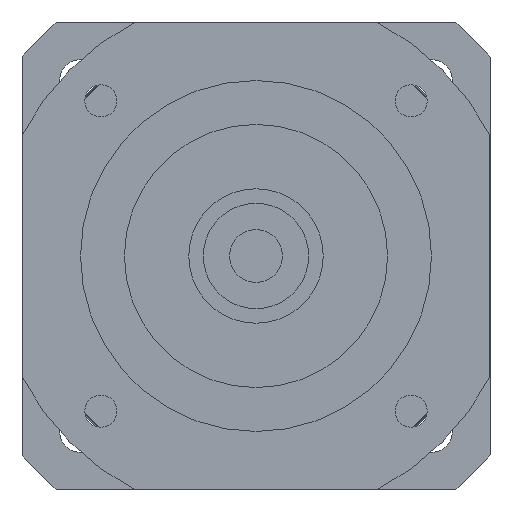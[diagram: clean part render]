
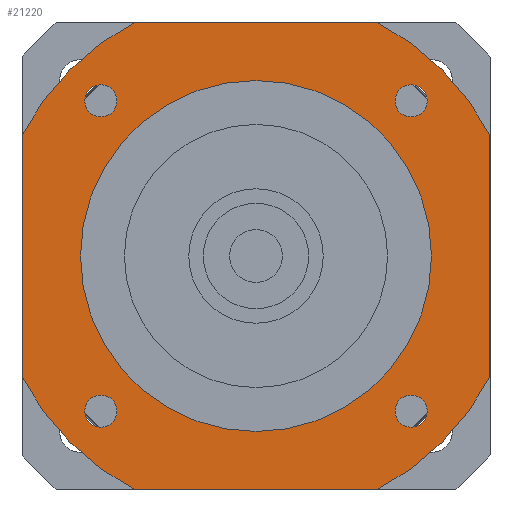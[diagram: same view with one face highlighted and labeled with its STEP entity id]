
A CAD part, left-side view. The second image highlights one B-rep face of the part: STEP entity #21220.
In plain terms, the highlighted planar face has unit normal (-1, 0, 0) as drawn and (0, 0, -1) by its records, which use the part's own axes.
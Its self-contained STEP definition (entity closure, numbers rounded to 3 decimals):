
#19550=CARTESIAN_POINT('',(26.517,23.767,-42.));
#19560=VERTEX_POINT('',#19550);
#19590=CARTESIAN_POINT('',(26.517,26.517,-42.));
#19600=DIRECTION('',(0.,0.,-1.));
#19610=DIRECTION('',(0.,1.,0.));
#19620=AXIS2_PLACEMENT_3D('',#19590,#19600,#19610);
#19630=CIRCLE('',#19620,2.75);
#19640=CARTESIAN_POINT('',(26.517,29.267,-42.));
#19650=VERTEX_POINT('',#19640);
#19660=EDGE_CURVE('',#19650,#19560,#19630,.T.);
#19780=CARTESIAN_POINT('',(40.,40.,-42.));
#19790=DIRECTION('',(0.,0.,-1.));
#19800=DIRECTION('',(1.,0.,0.));
#19810=AXIS2_PLACEMENT_3D('',#19780,#19790,#19800);
#19820=PLANE('',#19810);
#19830=CARTESIAN_POINT('',(-26.517,-26.517,-42.));
#19840=DIRECTION('',(0.,0.,-1.));
#19850=DIRECTION('',(0.,-1.,0.));
#19860=AXIS2_PLACEMENT_3D('',#19830,#19840,#19850);
#19870=CIRCLE('',#19860,2.75);
#19880=CARTESIAN_POINT('',(-26.517,-29.267,-42.));
#19890=VERTEX_POINT('',#19880);
#19900=CARTESIAN_POINT('',(-26.517,-23.767,-42.));
#19910=VERTEX_POINT('',#19900);
#19920=EDGE_CURVE('',#19890,#19910,#19870,.T.);
#19930=ORIENTED_EDGE('',*,*,#19920,.F.);
#19940=EDGE_CURVE('',#19910,#19890,#19870,.T.);
#19950=ORIENTED_EDGE('',*,*,#19940,.F.);
#19960=EDGE_LOOP('',(#19950,#19930));
#19970=FACE_BOUND('',#19960,.T.);
#19980=CARTESIAN_POINT('',(-26.517,26.517,-42.));
#19990=DIRECTION('',(0.,0.,-1.));
#20000=DIRECTION('',(-1.,0.,0.));
#20010=AXIS2_PLACEMENT_3D('',#19980,#19990,#20000);
#20020=CIRCLE('',#20010,2.75);
#20030=CARTESIAN_POINT('',(-29.267,26.517,-42.));
#20040=VERTEX_POINT('',#20030);
#20050=CARTESIAN_POINT('',(-23.767,26.517,-42.));
#20060=VERTEX_POINT('',#20050);
#20070=EDGE_CURVE('',#20040,#20060,#20020,.T.);
#20080=ORIENTED_EDGE('',*,*,#20070,.F.);
#20090=EDGE_CURVE('',#20060,#20040,#20020,.T.);
#20100=ORIENTED_EDGE('',*,*,#20090,.F.);
#20110=EDGE_LOOP('',(#20100,#20080));
#20120=FACE_BOUND('',#20110,.T.);
#20130=ORIENTED_EDGE('',*,*,#19660,.F.);
#20140=EDGE_CURVE('',#19560,#19650,#19630,.T.);
#20150=ORIENTED_EDGE('',*,*,#20140,.F.);
#20160=EDGE_LOOP('',(#20150,#20130));
#20170=FACE_BOUND('',#20160,.T.);
#20180=CARTESIAN_POINT('',(0.,0.,
-42.));
#20190=DIRECTION('',(0.,0.,1.));
#20200=DIRECTION('',(0.,1.,0.));
#20210=AXIS2_PLACEMENT_3D('',#20180,#20190,#20200);
#20220=CIRCLE('',#20210,30.);
#20230=CARTESIAN_POINT('',(-30.,0.,-42.));
#20240=VERTEX_POINT('',#20230);
#20250=CARTESIAN_POINT('',(30.,0.,-42.));
#20260=VERTEX_POINT('',#20250);
#20270=EDGE_CURVE('',#20240,#20260,#20220,.T.);
#20280=ORIENTED_EDGE('',*,*,#20270,.T.);
#20290=CARTESIAN_POINT('',(0.,30.,-42.));
#20300=VERTEX_POINT('',#20290);
#20310=EDGE_CURVE('',#20300,#20240,#20220,.T.);
#20320=ORIENTED_EDGE('',*,*,#20310,.T.);
#20330=EDGE_CURVE('',#20260,#20300,#20220,.T.);
#20340=ORIENTED_EDGE('',*,*,#20330,.T.);
#20350=EDGE_LOOP('',(#20340,#20320,#20280));
#20360=FACE_BOUND('',#20350,.T.);
#20370=CARTESIAN_POINT('',(-40.,40.,-42.));
#20380=DIRECTION('',(1.,0.,0.));
#20390=VECTOR('',#20380,1000.);
#20400=LINE('',#20370,#20390);
#20410=CARTESIAN_POINT('',(-20.616,40.,-42.));
#20420=VERTEX_POINT('',#20410);
#20430=CARTESIAN_POINT('',(20.616,40.,-42.));
#20440=VERTEX_POINT('',#20430);
#20450=EDGE_CURVE('',#20420,#20440,#20400,.T.);
#20460=ORIENTED_EDGE('',*,*,#20450,.T.);
#20470=CARTESIAN_POINT('',(0.,0.,
-42.));
#20480=DIRECTION('',(0.,0.,-1.));
#20490=DIRECTION('',(1.,0.,0.));
#20500=AXIS2_PLACEMENT_3D('',#20470,#20480,#20490);
#20510=CIRCLE('',#20500,45.);
#20520=CARTESIAN_POINT('',(-40.,20.616,-42.));
#20530=VERTEX_POINT('',#20520);
#20540=EDGE_CURVE('',#20530,#20420,#20510,.T.);
#20550=ORIENTED_EDGE('',*,*,#20540,.T.);
#20560=CARTESIAN_POINT('',(-40.,-40.,-42.));
#20570=DIRECTION('',(0.,1.,0.));
#20580=VECTOR('',#20570,1000.);
#20590=LINE('',#20560,#20580);
#20600=CARTESIAN_POINT('',(-40.,-20.616,-42.));
#20610=VERTEX_POINT('',#20600);
#20620=EDGE_CURVE('',#20610,#20530,#20590,.T.);
#20630=ORIENTED_EDGE('',*,*,#20620,.T.);
#20640=CARTESIAN_POINT('',(0.,0.,
-42.));
#20650=DIRECTION('',(0.,0.,-1.));
#20660=DIRECTION('',(1.,0.,0.));
#20670=AXIS2_PLACEMENT_3D('',#20640,#20650,#20660);
#20680=CIRCLE('',#20670,45.);
#20690=CARTESIAN_POINT('',(-20.616,-40.,-42.));
#20700=VERTEX_POINT('',#20690);
#20710=EDGE_CURVE('',#20700,#20610,#20680,.T.);
#20720=ORIENTED_EDGE('',*,*,#20710,.T.);
#20730=CARTESIAN_POINT('',(40.,-40.,-42.));
#20740=DIRECTION('',(-1.,0.,0.));
#20750=VECTOR('',#20740,1000.);
#20760=LINE('',#20730,#20750);
#20770=CARTESIAN_POINT('',(20.616,-40.,-42.));
#20780=VERTEX_POINT('',#20770);
#20790=EDGE_CURVE('',#20780,#20700,#20760,.T.);
#20800=ORIENTED_EDGE('',*,*,#20790,.T.);
#20810=CARTESIAN_POINT('',(0.,0.,
-42.));
#20820=DIRECTION('',(0.,0.,-1.));
#20830=DIRECTION('',(1.,0.,0.));
#20840=AXIS2_PLACEMENT_3D('',#20810,#20820,#20830);
#20850=CIRCLE('',#20840,45.);
#20860=CARTESIAN_POINT('',(40.,-20.616,-42.));
#20870=VERTEX_POINT('',#20860);
#20880=EDGE_CURVE('',#20870,#20780,#20850,.T.);
#20890=ORIENTED_EDGE('',*,*,#20880,.T.);
#20900=CARTESIAN_POINT('',(40.,40.,-42.));
#20910=DIRECTION('',(0.,-1.,0.));
#20920=VECTOR('',#20910,1000.);
#20930=LINE('',#20900,#20920);
#20940=CARTESIAN_POINT('',(40.,20.616,-42.));
#20950=VERTEX_POINT('',#20940);
#20960=EDGE_CURVE('',#20950,#20870,#20930,.T.);
#20970=ORIENTED_EDGE('',*,*,#20960,.T.);
#20980=CARTESIAN_POINT('',(0.,0.,
-42.));
#20990=DIRECTION('',(0.,0.,-1.));
#21000=DIRECTION('',(1.,0.,0.));
#21010=AXIS2_PLACEMENT_3D('',#20980,#20990,#21000);
#21020=CIRCLE('',#21010,45.);
#21030=EDGE_CURVE('',#20440,#20950,#21020,.T.);
#21040=ORIENTED_EDGE('',*,*,#21030,.T.);
#21050=EDGE_LOOP('',(#21040,#20970,#20890,#20800,#20720,#20630,#20550,
#20460));
#21060=FACE_OUTER_BOUND('',#21050,.T.);
#21070=CARTESIAN_POINT('',(26.517,-26.517,-42.));
#21080=DIRECTION('',(0.,0.,-1.));
#21090=DIRECTION('',(1.,0.,0.));
#21100=AXIS2_PLACEMENT_3D('',#21070,#21080,#21090);
#21110=CIRCLE('',#21100,2.75);
#21120=CARTESIAN_POINT('',(29.267,-26.517,-42.));
#21130=VERTEX_POINT('',#21120);
#21140=CARTESIAN_POINT('',(23.767,-26.517,-42.));
#21150=VERTEX_POINT('',#21140);
#21160=EDGE_CURVE('',#21130,#21150,#21110,.T.);
#21170=ORIENTED_EDGE('',*,*,#21160,.F.);
#21180=EDGE_CURVE('',#21150,#21130,#21110,.T.);
#21190=ORIENTED_EDGE('',*,*,#21180,.F.);
#21200=EDGE_LOOP('',(#21190,#21170));
#21210=FACE_BOUND('',#21200,.T.);
#21220=ADVANCED_FACE('',(#19970,#20120,#20170,#20360,#21060,#21210),
#19820,.T.);
